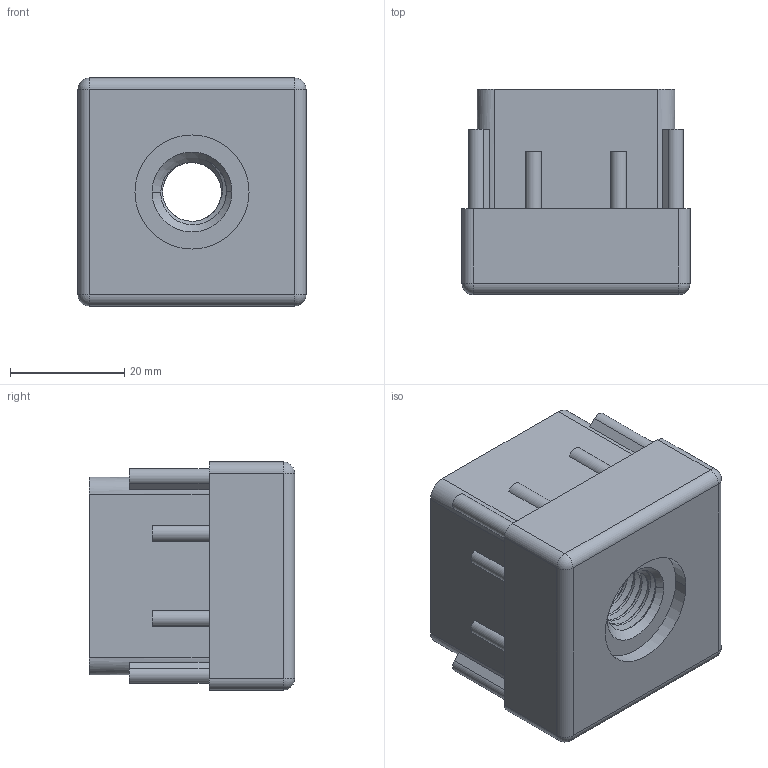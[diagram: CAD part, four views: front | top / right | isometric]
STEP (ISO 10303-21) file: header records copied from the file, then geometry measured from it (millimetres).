
FILE_DESCRIPTION (( 'STEP AP214' ), '1' );
FILE_NAME ('FB-40-M12.step', '2021-01-27T06:32:07', ( '' ), ( '' ), 'SwSTEP 2.0', 'SolidWorks 2019', '' );
FILE_SCHEMA (( 'AUTOMOTIVE_DESIGN' ));
Length unit declared in the file: millimetre
Products named in the file (2): FB-40-M12
Bounding box: 40 x 36 x 40 mm (x, y, z)
Volume: 38981.6 mm3; surface area: 10338.6 mm2
Topology: 1 solids, 1 shells, 92 faces, 249 edges, 158 vertices
Faces by surface type: cylinder 44, plane 33, cone 8, sphere 4, bspline 3
Entity records: 4775 total; most frequent: CARTESIAN_POINT 2440, ORIENTED_EDGE 490, DIRECTION 485, EDGE_CURVE 245, AXIS2_PLACEMENT_3D 179, VERTEX_POINT 158, LINE 127, VECTOR 127
